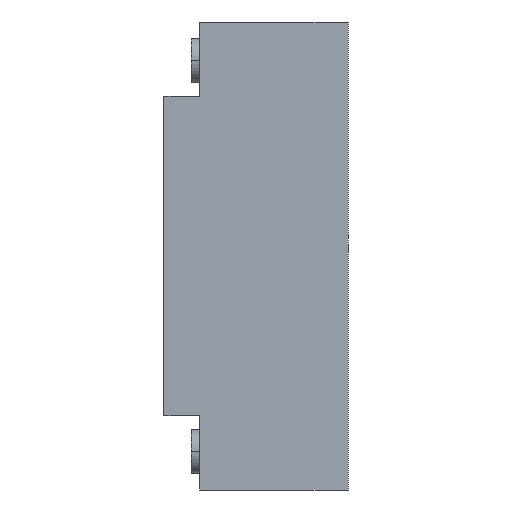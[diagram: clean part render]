
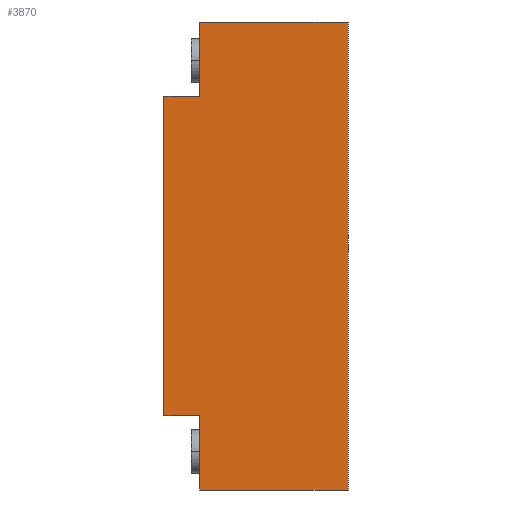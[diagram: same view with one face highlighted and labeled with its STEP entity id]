
A CAD part, left-side view. The second image highlights one B-rep face of the part: STEP entity #3870.
In plain terms, the highlighted planar face has unit normal (-1, 0, 0).
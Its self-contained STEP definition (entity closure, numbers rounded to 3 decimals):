
#1=DIRECTION('',(0.,1.,0.));
#2=VECTOR('',#1,34.9);
#3=CARTESIAN_POINT('',(-276.1,0.,-55.));
#4=LINE('',#3,#2);
#5=DIRECTION('',(0.,0.,1.));
#6=VECTOR('',#5,17.5);
#7=CARTESIAN_POINT('',(-276.1,34.9,-55.));
#8=LINE('',#7,#6);
#9=DIRECTION('',(0.,1.,0.));
#10=VECTOR('',#9,8.4);
#11=CARTESIAN_POINT('',(-276.1,34.9,-37.5));
#12=LINE('',#11,#10);
#13=DIRECTION('',(0.,0.,1.));
#14=VECTOR('',#13,75.);
#15=CARTESIAN_POINT('',(-276.1,43.3,-37.5));
#16=LINE('',#15,#14);
#17=DIRECTION('',(0.,-1.,0.));
#18=VECTOR('',#17,8.4);
#19=CARTESIAN_POINT('',(-276.1,43.3,37.5));
#20=LINE('',#19,#18);
#21=DIRECTION('',(0.,0.,1.));
#22=VECTOR('',#21,17.5);
#23=CARTESIAN_POINT('',(-276.1,34.9,37.5));
#24=LINE('',#23,#22);
#25=DIRECTION('',(0.,-1.,0.));
#26=VECTOR('',#25,34.9);
#27=CARTESIAN_POINT('',(-276.1,34.9,55.));
#28=LINE('',#27,#26);
#29=DIRECTION('',(0.,0.,-1.));
#30=VECTOR('',#29,110.);
#31=CARTESIAN_POINT('',(-276.1,0.,55.));
#32=LINE('',#31,#30);
#2941=CARTESIAN_POINT('',(-276.1,0.,-55.));
#2942=CARTESIAN_POINT('',(-276.1,34.9,-55.));
#2943=VERTEX_POINT('',#2941);
#2944=VERTEX_POINT('',#2942);
#2945=CARTESIAN_POINT('',(-276.1,34.9,-37.5));
#2946=VERTEX_POINT('',#2945);
#2947=CARTESIAN_POINT('',(-276.1,43.3,-37.5));
#2948=VERTEX_POINT('',#2947);
#2949=CARTESIAN_POINT('',(-276.1,43.3,37.5));
#2950=VERTEX_POINT('',#2949);
#2951=CARTESIAN_POINT('',(-276.1,34.9,37.5));
#2952=VERTEX_POINT('',#2951);
#2953=CARTESIAN_POINT('',(-276.1,34.9,55.));
#2954=VERTEX_POINT('',#2953);
#2955=CARTESIAN_POINT('',(-276.1,0.,55.));
#2956=VERTEX_POINT('',#2955);
#3847=CARTESIAN_POINT('',(-276.1,0.,0.));
#3848=DIRECTION('',(1.,0.,0.));
#3849=DIRECTION('',(0.,-1.,0.));
#3850=AXIS2_PLACEMENT_3D('',#3847,#3848,#3849);
#3851=PLANE('',#3850);
#3853=ORIENTED_EDGE('',*,*,#3852,.T.);
#3855=ORIENTED_EDGE('',*,*,#3854,.T.);
#3857=ORIENTED_EDGE('',*,*,#3856,.T.);
#3859=ORIENTED_EDGE('',*,*,#3858,.T.);
#3861=ORIENTED_EDGE('',*,*,#3860,.T.);
#3863=ORIENTED_EDGE('',*,*,#3862,.T.);
#3865=ORIENTED_EDGE('',*,*,#3864,.T.);
#3867=ORIENTED_EDGE('',*,*,#3866,.T.);
#3868=EDGE_LOOP('',(#3853,#3855,#3857,#3859,#3861,#3863,#3865,#3867));
#3869=FACE_OUTER_BOUND('',#3868,.F.);
#3870=ADVANCED_FACE('',(#3869),#3851,.F.);
#3852=EDGE_CURVE('',#2943,#2944,#4,.T.);
#3854=EDGE_CURVE('',#2944,#2946,#8,.T.);
#3856=EDGE_CURVE('',#2946,#2948,#12,.T.);
#3858=EDGE_CURVE('',#2948,#2950,#16,.T.);
#3860=EDGE_CURVE('',#2950,#2952,#20,.T.);
#3862=EDGE_CURVE('',#2952,#2954,#24,.T.);
#3864=EDGE_CURVE('',#2954,#2956,#28,.T.);
#3866=EDGE_CURVE('',#2956,#2943,#32,.T.);
